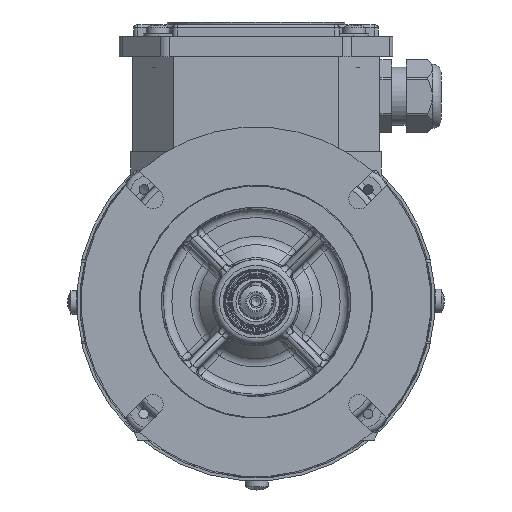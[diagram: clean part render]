
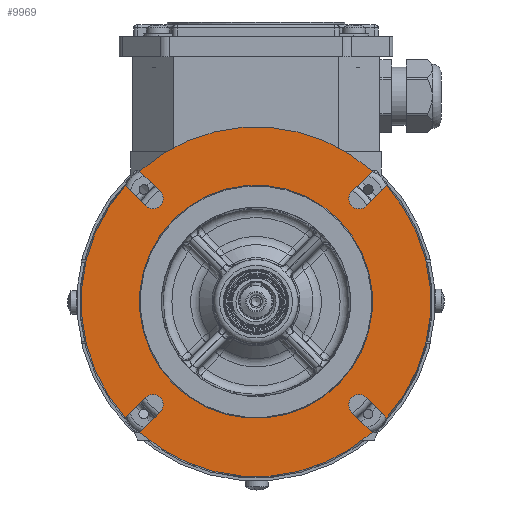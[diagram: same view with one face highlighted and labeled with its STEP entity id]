
A CAD part, front view. The second image highlights one B-rep face of the part: STEP entity #9969.
In plain terms, the highlighted planar face has unit normal (0, -1, 0).
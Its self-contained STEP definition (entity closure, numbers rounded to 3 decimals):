
#5785=FACE_BOUND('',#16294,.T.);
#5786=FACE_BOUND('',#16295,.T.);
#9969=ADVANCED_FACE('',(#5785,#5786),#11754,.T.);
#11754=PLANE('',#53220);
#16294=EDGE_LOOP('',(#26443));
#16295=EDGE_LOOP('',(#26444,#26445,#26446,#26447,#26448,#26449,#26450,#26451,
#26452,#26453,#26454,#26455,#26456,#26457,#26458,#26459));
#26443=ORIENTED_EDGE('',*,*,#39228,.T.);
#26444=ORIENTED_EDGE('',*,*,#39229,.T.);
#26445=ORIENTED_EDGE('',*,*,#39230,.T.);
#26446=ORIENTED_EDGE('',*,*,#39231,.T.);
#26447=ORIENTED_EDGE('',*,*,#39232,.T.);
#26448=ORIENTED_EDGE('',*,*,#39233,.T.);
#26449=ORIENTED_EDGE('',*,*,#39234,.T.);
#26450=ORIENTED_EDGE('',*,*,#39235,.T.);
#26451=ORIENTED_EDGE('',*,*,#39236,.T.);
#26452=ORIENTED_EDGE('',*,*,#39237,.T.);
#26453=ORIENTED_EDGE('',*,*,#39238,.F.);
#26454=ORIENTED_EDGE('',*,*,#39239,.F.);
#26455=ORIENTED_EDGE('',*,*,#39240,.F.);
#26456=ORIENTED_EDGE('',*,*,#39241,.T.);
#26457=ORIENTED_EDGE('',*,*,#39242,.F.);
#26458=ORIENTED_EDGE('',*,*,#39243,.F.);
#26459=ORIENTED_EDGE('',*,*,#39244,.F.);
#33449=VERTEX_POINT('',#80736);
#33450=VERTEX_POINT('',#80738);
#33451=VERTEX_POINT('',#80739);
#33452=VERTEX_POINT('',#80741);
#33453=VERTEX_POINT('',#80743);
#33454=VERTEX_POINT('',#80745);
#33455=VERTEX_POINT('',#80747);
#33456=VERTEX_POINT('',#80749);
#33457=VERTEX_POINT('',#80751);
#33458=VERTEX_POINT('',#80753);
#33459=VERTEX_POINT('',#80755);
#33460=VERTEX_POINT('',#80757);
#33461=VERTEX_POINT('',#80759);
#33462=VERTEX_POINT('',#80761);
#33463=VERTEX_POINT('',#80763);
#33464=VERTEX_POINT('',#80765);
#33465=VERTEX_POINT('',#80767);
#39228=EDGE_CURVE('',#33449,#33449,#48554,.T.);
#39229=EDGE_CURVE('',#33450,#33451,#48555,.T.);
#39230=EDGE_CURVE('',#33451,#33452,#43538,.T.);
#39231=EDGE_CURVE('',#33452,#33453,#48556,.T.);
#39232=EDGE_CURVE('',#33453,#33454,#43539,.T.);
#39233=EDGE_CURVE('',#33454,#33455,#48557,.T.);
#39234=EDGE_CURVE('',#33455,#33456,#43540,.T.);
#39235=EDGE_CURVE('',#33456,#33457,#48558,.T.);
#39236=EDGE_CURVE('',#33457,#33458,#43541,.T.);
#39237=EDGE_CURVE('',#33458,#33459,#48559,.T.);
#39238=EDGE_CURVE('',#33460,#33459,#43542,.T.);
#39239=EDGE_CURVE('',#33461,#33460,#48560,.T.);
#39240=EDGE_CURVE('',#33462,#33461,#43543,.T.);
#39241=EDGE_CURVE('',#33462,#33463,#48561,.T.);
#39242=EDGE_CURVE('',#33464,#33463,#43544,.T.);
#39243=EDGE_CURVE('',#33465,#33464,#48562,.T.);
#39244=EDGE_CURVE('',#33450,#33465,#43545,.T.);
#43538=LINE('',#80740,#46468);
#43539=LINE('',#80744,#46469);
#43540=LINE('',#80748,#46470);
#43541=LINE('',#80752,#46471);
#43542=LINE('',#80756,#46472);
#43543=LINE('',#80760,#46473);
#43544=LINE('',#80764,#46474);
#43545=LINE('',#80768,#46475);
#46468=VECTOR('',#63359,1.);
#46469=VECTOR('',#63362,1.);
#46470=VECTOR('',#63365,1.);
#46471=VECTOR('',#63368,1.);
#46472=VECTOR('',#63371,1.);
#46473=VECTOR('',#63374,1.);
#46474=VECTOR('',#63377,1.);
#46475=VECTOR('',#63380,1.);
#48554=CIRCLE('',#53211,40.);
#48555=CIRCLE('',#53212,60.);
#48556=CIRCLE('',#53213,3.5);
#48557=CIRCLE('',#53214,60.);
#48558=CIRCLE('',#53215,3.5);
#48559=CIRCLE('',#53216,60.);
#48560=CIRCLE('',#53217,3.5);
#48561=CIRCLE('',#53218,60.);
#48562=CIRCLE('',#53219,3.5);
#53211=AXIS2_PLACEMENT_3D('',#80735,#63355,#63356);
#53212=AXIS2_PLACEMENT_3D('',#80737,#63357,#63358);
#53213=AXIS2_PLACEMENT_3D('',#80742,#63360,#63361);
#53214=AXIS2_PLACEMENT_3D('',#80746,#63363,#63364);
#53215=AXIS2_PLACEMENT_3D('',#80750,#63366,#63367);
#53216=AXIS2_PLACEMENT_3D('',#80754,#63369,#63370);
#53217=AXIS2_PLACEMENT_3D('',#80758,#63372,#63373);
#53218=AXIS2_PLACEMENT_3D('',#80762,#63375,#63376);
#53219=AXIS2_PLACEMENT_3D('',#80766,#63378,#63379);
#53220=AXIS2_PLACEMENT_3D('',#80769,#63381,#63382);
#63355=DIRECTION('',(0.,1.,0.));
#63356=DIRECTION('',(0.707,0.,-0.708));
#63357=DIRECTION('',(0.,-1.,0.));
#63358=DIRECTION('',(0.707,0.,-0.708));
#63359=DIRECTION('',(-0.708,0.,-0.707));
#63360=DIRECTION('',(0.,1.,0.));
#63361=DIRECTION('',(0.707,0.,-0.708));
#63362=DIRECTION('',(0.708,0.,0.707));
#63363=DIRECTION('',(0.,-1.,0.));
#63364=DIRECTION('',(0.707,0.,-0.708));
#63365=DIRECTION('',(0.707,0.,-0.708));
#63366=DIRECTION('',(0.,1.,0.));
#63367=DIRECTION('',(0.708,0.,0.707));
#63368=DIRECTION('',(-0.707,0.,0.708));
#63369=DIRECTION('',(0.,-1.,0.));
#63370=DIRECTION('',(0.707,0.,-0.708));
#63371=DIRECTION('',(-0.708,0.,-0.707));
#63372=DIRECTION('',(0.,-1.,0.));
#63373=DIRECTION('',(-0.707,0.,0.708));
#63374=DIRECTION('',(0.708,0.,0.707));
#63375=DIRECTION('',(0.,-1.,0.));
#63376=DIRECTION('',(0.707,0.,-0.708));
#63377=DIRECTION('',(0.707,0.,-0.708));
#63378=DIRECTION('',(0.,-1.,0.));
#63379=DIRECTION('',(-0.708,0.,-0.707));
#63380=DIRECTION('',(-0.707,0.,0.708));
#63381=DIRECTION('',(0.,-1.,0.));
#63382=DIRECTION('',(-0.707,0.,0.708));
#80735=CARTESIAN_POINT('',(0.,-42.5,0.));
#80736=CARTESIAN_POINT('',(28.267,-42.5,-28.302));
#80737=CARTESIAN_POINT('',(0.,-42.5,0.));
#80738=CARTESIAN_POINT('',(44.805,-42.5,-39.907));
#80739=CARTESIAN_POINT('',(44.853,-42.5,39.852));
#80740=CARTESIAN_POINT('',(52.001,-42.5,46.991));
#80741=CARTESIAN_POINT('',(37.85,-42.5,32.857));
#80742=CARTESIAN_POINT('',(35.377,-42.5,35.334));
#80743=CARTESIAN_POINT('',(32.904,-42.5,37.81));
#80744=CARTESIAN_POINT('',(32.904,-42.5,37.81));
#80745=CARTESIAN_POINT('',(39.907,-42.5,44.805));
#80746=CARTESIAN_POINT('',(0.,-42.5,0.));
#80747=CARTESIAN_POINT('',(-39.852,-42.5,44.853));
#80748=CARTESIAN_POINT('',(-46.991,-42.5,52.001));
#80749=CARTESIAN_POINT('',(-32.857,-42.5,37.85));
#80750=CARTESIAN_POINT('',(-35.334,-42.5,35.377));
#80751=CARTESIAN_POINT('',(-37.81,-42.5,32.904));
#80752=CARTESIAN_POINT('',(-37.81,-42.5,32.904));
#80753=CARTESIAN_POINT('',(-44.805,-42.5,39.907));
#80754=CARTESIAN_POINT('',(0.,-42.5,0.));
#80755=CARTESIAN_POINT('',(-44.853,-42.5,-39.852));
#80756=CARTESIAN_POINT('',(-37.85,-42.5,-32.857));
#80757=CARTESIAN_POINT('',(-37.85,-42.5,-32.857));
#80758=CARTESIAN_POINT('',(-35.377,-42.5,-35.334));
#80759=CARTESIAN_POINT('',(-32.904,-42.5,-37.81));
#80760=CARTESIAN_POINT('',(-47.054,-42.5,-51.944));
#80761=CARTESIAN_POINT('',(-39.907,-42.5,-44.805));
#80762=CARTESIAN_POINT('',(0.,-42.5,0.));
#80763=CARTESIAN_POINT('',(39.852,-42.5,-44.853));
#80764=CARTESIAN_POINT('',(32.857,-42.5,-37.85));
#80765=CARTESIAN_POINT('',(32.857,-42.5,-37.85));
#80766=CARTESIAN_POINT('',(35.334,-42.5,-35.377));
#80767=CARTESIAN_POINT('',(37.81,-42.5,-32.904));
#80768=CARTESIAN_POINT('',(51.944,-42.5,-47.054));
#80769=CARTESIAN_POINT('',(0.,-42.5,0.));
